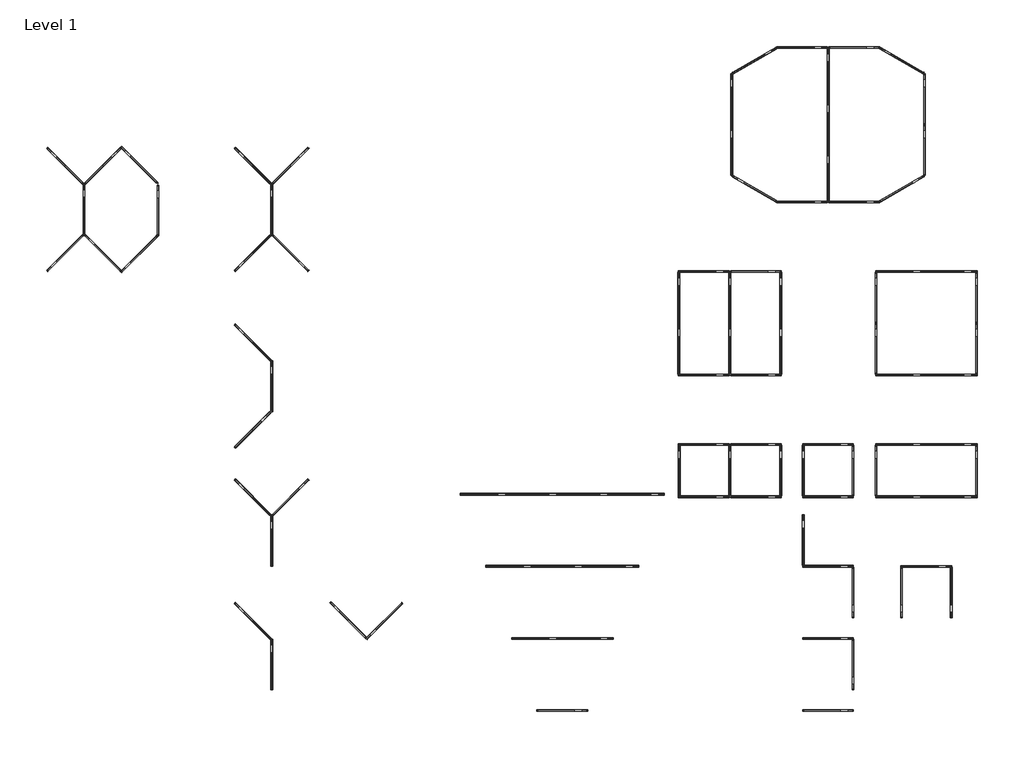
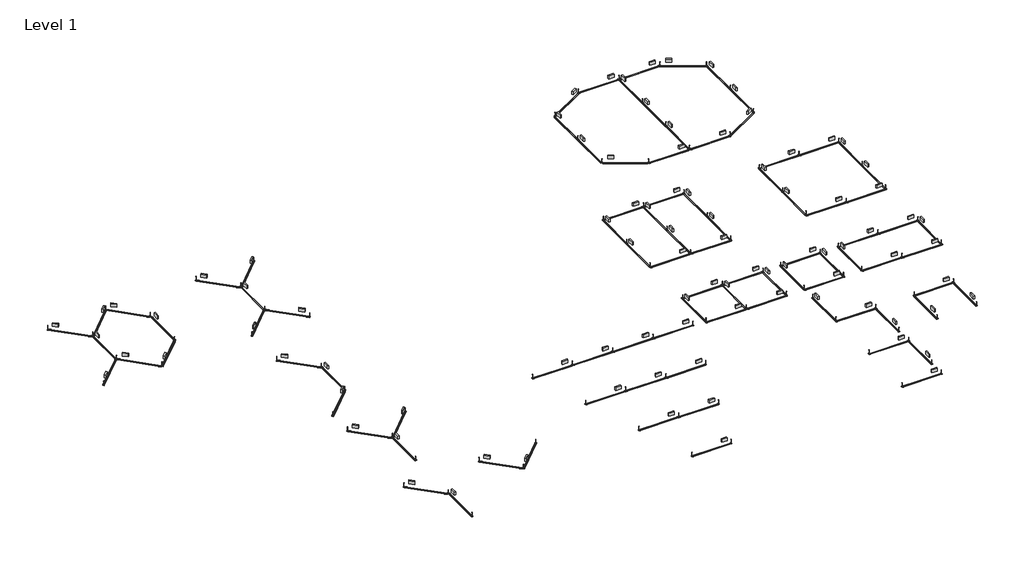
# One storey: 92 light fixtures.
"""IFC4 building model written with IfcOpenShell, lengths in millimetres."""

from ifc_helpers import new_model, si_unit, origin, place, context, project, spatial, transform, mapped, element, save
from components import light_fixture_3e24a621, light_fixture_ee533db2, light_fixture_271697db, light_fixture_cd124d69, light_fixture_cd4f6d3a, light_fixture_5896567f, light_fixture_b22f9c4b, light_fixture_e99aa70f, light_fixture_3a0b2da0, light_fixture_173045c4, light_fixture_2914079e, light_fixture_7c029200, light_fixture_7fb10494, light_fixture_3ca2d1e0, light_fixture_e4f0a693, light_fixture_d05c8b2b, light_fixture_16b5204d, light_fixture_072f2477, light_fixture_eab2339f, light_fixture_f0bcf3ed, light_fixture_624f0ba3

model = new_model("IFC4")

# Units and contexts
model_context = context("Model", 3, world=origin())
ifc_project = project(units=[si_unit("LENGTHUNIT", "METRE", prefix="MILLI")], contexts=[model_context])

# Site, building, storey
site = spatial("IfcSite", under=ifc_project)
building = spatial("IfcBuilding", under=site)
storey = spatial("IfcBuildingStorey", under=building, Name="Level 1", Elevation=0.0)

# Light fixtures
placement = place(None, origin())
light_fixture_shape = light_fixture_3e24a621(model_context)
element("IfcLightFixture", 1, ObjectType="Fabbian.Pivot F39 (F39 A01A 01,F39 A01A 21,F39 A01A 76,F39 A02A 01,F39 A02A 21,F39 A02A 76) : F39 A01A 01", at=placement, inside=storey, context=model_context, shape_type="MappedRepresentation", body=[
    mapped(light_fixture_shape, transform((-397.4015807, -85.0224688, 0.0), x_axis=(1.0, 0.0, 0.0), y_axis=(0.0, -1.0, 0.0), z_axis=(0.0, 0.0, -1.0))),
])
element("IfcLightFixture", 2, ObjectType="Fabbian.Pivot F39 (F39 A01A 01,F39 A01A 21,F39 A01A 76,F39 A02A 01,F39 A02A 21,F39 A02A 76) : F39 A01A 01", at=placement, inside=storey, context=model_context, shape_type="MappedRepresentation", body=[
    mapped(light_fixture_shape, transform((8102.5984193, -85.0224688, 0.0), x_axis=(1.0, 0.0, 0.0), y_axis=(0.0, -1.0, 0.0), z_axis=(0.0, 0.0, -1.0))),
])
light_fixture_2_shape = light_fixture_ee533db2(model_context)
element("IfcLightFixture", 3, ObjectType="Fabbian.Pivot F39 (F39 A01A 01,F39 A01A 21,F39 A01A 76,F39 A02A 01,F39 A02A 21,F39 A02A 76) : F39 A01A 01", at=placement, inside=storey, context=model_context, shape_type="MappedRepresentation", body=[
    mapped(light_fixture_2_shape, transform((423.7070174, 2219.7775312, 0.0), x_axis=(1.0, 0.0, 0.0), y_axis=(0.0, -1.0, 0.0), z_axis=(0.0, 0.0, -1.0))),
])
element("IfcLightFixture", 4, ObjectType="Fabbian.Pivot F39 (F39 A01A 01,F39 A01A 21,F39 A01A 76,F39 A02A 01,F39 A02A 21,F39 A02A 76) : F39 A01A 01", at=placement, inside=storey, context=model_context, shape_type="MappedRepresentation", body=[
    mapped(light_fixture_2_shape, transform((1234.2249861, 4523.1701321, 0.0), x_axis=(1.0, 0.0, 0.0), y_axis=(0.0, -1.0, 0.0), z_axis=(0.0, 0.0, -1.0))),
])
element("IfcLightFixture", 5, ObjectType="Fabbian.Pivot F39 (F39 A01A 01,F39 A01A 21,F39 A01A 76,F39 A02A 01,F39 A02A 21,F39 A02A 76) : F39 A01A 01", at=placement, inside=storey, context=model_context, shape_type="MappedRepresentation", body=[
    mapped(light_fixture_2_shape, transform((2044.7429549, 6827.3841838, 0.0), x_axis=(1.0, 0.0, 0.0), y_axis=(0.0, -1.0, 0.0), z_axis=(0.0, 0.0, -1.0))),
])
element("IfcLightFixture", 6, ObjectType="Fabbian.Pivot F39 (F39 A01A 01,F39 A01A 21,F39 A01A 76,F39 A02A 01,F39 A02A 21,F39 A02A 76) : F39 A01A 01", at=placement, inside=storey, context=model_context, shape_type="MappedRepresentation", body=[
    mapped(light_fixture_2_shape, transform((8899.0121088, 1381.4783124, 0.0), x_axis=(0.0, -1.0, 0.0), y_axis=(-1.0, 0.0, 0.0), z_axis=(0.0, 0.0, -1.0))),
])
element("IfcLightFixture", 7, ObjectType="Fabbian.Pivot F39 (F39 A01A 01,F39 A01A 21,F39 A01A 76,F39 A02A 01,F39 A02A 21,F39 A02A 76) : F39 A01A 01", at=placement, inside=storey, context=model_context, shape_type="MappedRepresentation", body=[
    mapped(light_fixture_2_shape, transform((8899.0121088, 3685.2816387, 0.0), x_axis=(0.0, -1.0, 0.0), y_axis=(-1.0, 0.0, 0.0), z_axis=(0.0, 0.0, -1.0))),
])
element("IfcLightFixture", 8, ObjectType="Fabbian.Pivot F39 (F39 A01A 01,F39 A01A 21,F39 A01A 76,F39 A02A 01,F39 A02A 21,F39 A02A 76) : F39 A01A 01", at=placement, inside=storey, context=model_context, shape_type="MappedRepresentation", body=[
    mapped(light_fixture_2_shape, transform((7306.1808567, 5361.8800762, 0.0), x_axis=(0.0, 1.0, 0.0), y_axis=(1.0, 0.0, 0.0), z_axis=(0.0, 0.0, -1.0))),
])
element("IfcLightFixture", 9, ObjectType="Fabbian.Pivot F39 (F39 A01A 01,F39 A01A 21,F39 A01A 76,F39 A02A 01,F39 A02A 21,F39 A02A 76) : F39 A01A 01", at=placement, inside=storey, context=model_context, shape_type="MappedRepresentation", body=[
    mapped(light_fixture_2_shape, transform((12038.885633, 3683.8883063, 0.0), x_axis=(0.0, -1.0, 0.0), y_axis=(-1.0, 0.0, 0.0), z_axis=(0.0, 0.0, -1.0))),
])
element("IfcLightFixture", 10, ObjectType="Fabbian.Pivot F39 (F39 A01A 01,F39 A01A 21,F39 A01A 76,F39 A02A 01,F39 A02A 21,F39 A02A 76) : F39 A01A 01", at=placement, inside=storey, context=model_context, shape_type="MappedRepresentation", body=[
    mapped(light_fixture_2_shape, transform((10446.0543808, 3683.8883063, 0.0), x_axis=(0.0, -1.0, 0.0), y_axis=(-1.0, 0.0, 0.0), z_axis=(0.0, 0.0, -1.0))),
])
element("IfcLightFixture", 11, ObjectType="Fabbian.Pivot F39 (F39 A01A 01,F39 A01A 21,F39 A01A 76,F39 A02A 01,F39 A02A 21,F39 A02A 76) : F39 A01A 01", at=placement, inside=storey, context=model_context, shape_type="MappedRepresentation", body=[
    mapped(light_fixture_2_shape, transform((-7244.3753854, 2806.3629975, 0.0), x_axis=(-0.7071067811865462, 0.7071067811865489, 0.0), y_axis=(0.7071067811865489, 0.7071067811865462, 0.0), z_axis=(0.0, 0.0, -1.0))),
])
light_fixture_3_shape = light_fixture_271697db(model_context)
element("IfcLightFixture", 12, ObjectType="Fabbian.Pivot F39 (F39 A01A 01,F39 A01A 21,F39 A01A 76,F39 A02A 01,F39 A02A 21,F39 A02A 76) : F39 A01A 01", at=placement, inside=storey, context=model_context, shape_type="MappedRepresentation", body=[
    mapped(light_fixture_3_shape, transform((-1207.9195494, 2219.7775312, 0.0), x_axis=(1.0, 0.0, 0.0), y_axis=(0.0, -1.0, 0.0), z_axis=(0.0, 0.0, -1.0))),
])
element("IfcLightFixture", 13, ObjectType="Fabbian.Pivot F39 (F39 A01A 01,F39 A01A 21,F39 A01A 76,F39 A02A 01,F39 A02A 21,F39 A02A 76) : F39 A01A 01", at=placement, inside=storey, context=model_context, shape_type="MappedRepresentation", body=[
    mapped(light_fixture_3_shape, transform((8102.5984193, 2219.7775312, 0.0), x_axis=(1.0, 0.0, 0.0), y_axis=(0.0, -1.0, 0.0), z_axis=(0.0, 0.0, -1.0))),
])
element("IfcLightFixture", 14, ObjectType="Fabbian.Pivot F39 (F39 A01A 01,F39 A01A 21,F39 A01A 76,F39 A02A 01,F39 A02A 21,F39 A02A 76) : F39 A01A 01", at=placement, inside=storey, context=model_context, shape_type="MappedRepresentation", body=[
    mapped(light_fixture_3_shape, transform((-6088.4588027, 2776.7454558, 0.0), x_axis=(-0.7071067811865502, -0.7071067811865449, 0.0), y_axis=(-0.7071067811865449, 0.7071067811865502, 0.0), z_axis=(0.0, 0.0, -1.0))),
])
light_fixture_4_shape = light_fixture_cd124d69(model_context)
element("IfcLightFixture", 15, ObjectType="Fabbian.Pivot F39 (F39 A01A 01,F39 A01A 21,F39 A01A 76,F39 A02A 01,F39 A02A 21,F39 A02A 76) : F39 A01A 01", at=placement, inside=storey, context=model_context, shape_type="MappedRepresentation", body=[
    mapped(light_fixture_4_shape, transform((-2029.0281475, 4523.1701321, 0.0), x_axis=(1.0, 0.0, 0.0), y_axis=(0.0, -1.0, 0.0), z_axis=(0.0, 0.0, -1.0))),
])
element("IfcLightFixture", 16, ObjectType="Fabbian.Pivot F39 (F39 A01A 01,F39 A01A 21,F39 A01A 76,F39 A02A 01,F39 A02A 21,F39 A02A 76) : F39 A01A 01", at=placement, inside=storey, context=model_context, shape_type="MappedRepresentation", body=[
    mapped(light_fixture_4_shape, transform((-2850.1367456, 6827.3841836, 0.0), x_axis=(1.0, 0.0, 0.0), y_axis=(0.0, -1.0, 0.0), z_axis=(0.0, 0.0, -1.0))),
])
element("IfcLightFixture", 17, ObjectType="Fabbian.Pivot F39 (F39 A01A 01,F39 A01A 21,F39 A01A 76,F39 A02A 01,F39 A02A 21,F39 A02A 76) : F39 A01A 01", at=placement, inside=storey, context=model_context, shape_type="MappedRepresentation", body=[
    mapped(light_fixture_4_shape, transform((-10299.1778112, 8890.6153217, 0.0), x_axis=(0.707106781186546, 0.7071067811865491, 0.0), y_axis=(0.7071067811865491, -0.707106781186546, 0.0), z_axis=(0.0, 0.0, -1.0))),
])
light_fixture_5_shape = light_fixture_cd4f6d3a(model_context)
element("IfcLightFixture", 18, ObjectType="Fabbian.Pivot F39 (F39 A01A 01,F39 A01A 21,F39 A01A 76,F39 A02A 01,F39 A02A 21,F39 A02A 76) : F39 A01A 01", at=placement, inside=storey, context=model_context, shape_type="MappedRepresentation", body=[
    mapped(light_fixture_5_shape, transform((-397.4015807, 4523.5808575, 0.0), x_axis=(1.0, 0.0, 0.0), y_axis=(0.0, -1.0, 0.0), z_axis=(0.0, 0.0, -1.0))),
])
element("IfcLightFixture", 19, ObjectType="Fabbian.Pivot F39 (F39 A01A 01,F39 A01A 21,F39 A01A 76,F39 A02A 01,F39 A02A 21,F39 A02A 76) : F39 A01A 01", at=placement, inside=storey, context=model_context, shape_type="MappedRepresentation", body=[
    mapped(light_fixture_5_shape, transform((-1218.5101788, 6827.3841838, 0.0), x_axis=(1.0, 0.0, 0.0), y_axis=(0.0, -1.0, 0.0), z_axis=(0.0, 0.0, -1.0))),
])
element("IfcLightFixture", 20, ObjectType="Fabbian.Pivot F39 (F39 A01A 01,F39 A01A 21,F39 A01A 76,F39 A02A 01,F39 A02A 21,F39 A02A 76) : F39 A01A 01", at=placement, inside=storey, context=model_context, shape_type="MappedRepresentation", body=[
    mapped(light_fixture_5_shape, transform((8102.5984193, 4523.5808575, 0.0), x_axis=(1.0, 0.0, 0.0), y_axis=(0.0, -1.0, 0.0), z_axis=(0.0, 0.0, -1.0))),
])
element("IfcLightFixture", 21, ObjectType="Fabbian.Pivot F39 (F39 A01A 01,F39 A01A 21,F39 A01A 76,F39 A02A 01,F39 A02A 21,F39 A02A 76) : F39 A01A 01", at=placement, inside=storey, context=model_context, shape_type="MappedRepresentation", body=[
    mapped(light_fixture_5_shape, transform((8102.5984193, 8423.5808575, 0.0), x_axis=(1.0, 0.0, 0.0), y_axis=(0.0, -1.0, 0.0), z_axis=(0.0, 0.0, -1.0))),
])
element("IfcLightFixture", 22, ObjectType="Fabbian.Pivot F39 (F39 A01A 01,F39 A01A 21,F39 A01A 76,F39 A02A 01,F39 A02A 21,F39 A02A 76) : F39 A01A 01", at=placement, inside=storey, context=model_context, shape_type="MappedRepresentation", body=[
    mapped(light_fixture_5_shape, transform((11242.4719435, 4522.187525, 0.0), x_axis=(1.0, 0.0, 0.0), y_axis=(0.0, -1.0, 0.0), z_axis=(0.0, 0.0, -1.0))),
])
element("IfcLightFixture", 23, ObjectType="Fabbian.Pivot F39 (F39 A01A 01,F39 A01A 21,F39 A01A 76,F39 A02A 01,F39 A02A 21,F39 A02A 76) : F39 A01A 01", at=placement, inside=storey, context=model_context, shape_type="MappedRepresentation", body=[
    mapped(light_fixture_5_shape, transform((8102.5984193, 6746.9722265, 0.0), x_axis=(1.0, 0.0, 0.0), y_axis=(0.0, -1.0, 0.0), z_axis=(0.0, 0.0, -1.0))),
])
element("IfcLightFixture", 24, ObjectType="Fabbian.Pivot F39 (F39 A01A 01,F39 A01A 21,F39 A01A 76,F39 A02A 01,F39 A02A 21,F39 A02A 76) : F39 A01A 01", at=placement, inside=storey, context=model_context, shape_type="MappedRepresentation", body=[
    mapped(light_fixture_5_shape, transform((10431.9578479, 8423.5808575, 0.0), x_axis=(1.0, 0.0, 0.0), y_axis=(0.0, -1.0, 0.0), z_axis=(0.0, 0.0, -1.0))),
])
element("IfcLightFixture", 25, ObjectType="Fabbian.Pivot F39 (F39 A01A 01,F39 A01A 21,F39 A01A 76,F39 A02A 01,F39 A02A 21,F39 A02A 76) : F39 A01A 01", at=placement, inside=storey, context=model_context, shape_type="MappedRepresentation", body=[
    mapped(light_fixture_5_shape, transform((10431.9578479, 6746.9722265, 0.0), x_axis=(1.0, 0.0, 0.0), y_axis=(0.0, -1.0, 0.0), z_axis=(0.0, 0.0, -1.0))),
])
element("IfcLightFixture", 26, ObjectType="Fabbian.Pivot F39 (F39 A01A 01,F39 A01A 21,F39 A01A 76,F39 A02A 01,F39 A02A 21,F39 A02A 76) : F39 A01A 01", at=placement, inside=storey, context=model_context, shape_type="MappedRepresentation", body=[
    mapped(light_fixture_5_shape, transform((4123.6124239, 8423.5808575, 0.0), x_axis=(1.0, 0.0, 0.0), y_axis=(0.0, -1.0, 0.0), z_axis=(0.0, 0.0, -1.0))),
])
element("IfcLightFixture", 27, ObjectType="Fabbian.Pivot F39 (F39 A01A 01,F39 A01A 21,F39 A01A 76,F39 A02A 01,F39 A02A 21,F39 A02A 76) : F39 A01A 01", at=placement, inside=storey, context=model_context, shape_type="MappedRepresentation", body=[
    mapped(light_fixture_5_shape, transform((4123.6124239, 6746.9722265, 0.0), x_axis=(1.0, 0.0, 0.0), y_axis=(0.0, -1.0, 0.0), z_axis=(0.0, 0.0, -1.0))),
])
element("IfcLightFixture", 28, ObjectType="Fabbian.Pivot F39 (F39 A01A 01,F39 A01A 21,F39 A01A 76,F39 A02A 01,F39 A02A 21,F39 A02A 76) : F39 A01A 01", at=placement, inside=storey, context=model_context, shape_type="MappedRepresentation", body=[
    mapped(light_fixture_5_shape, transform((10431.9578479, 13955.2074243, 0.0), x_axis=(1.0, 0.0, 0.0), y_axis=(0.0, -1.0, 0.0), z_axis=(0.0, 0.0, -1.0))),
])
element("IfcLightFixture", 29, ObjectType="Fabbian.Pivot F39 (F39 A01A 01,F39 A01A 21,F39 A01A 76,F39 A02A 01,F39 A02A 21,F39 A02A 76) : F39 A01A 01", at=placement, inside=storey, context=model_context, shape_type="MappedRepresentation", body=[
    mapped(light_fixture_5_shape, transform((10431.9578479, 10646.9722265, 0.0), x_axis=(1.0, 0.0, 0.0), y_axis=(0.0, -1.0, 0.0), z_axis=(0.0, 0.0, -1.0))),
])
element("IfcLightFixture", 30, ObjectType="Fabbian.Pivot F39 (F39 A01A 01,F39 A01A 21,F39 A01A 76,F39 A02A 01,F39 A02A 21,F39 A02A 76) : F39 A01A 01", at=placement, inside=storey, context=model_context, shape_type="MappedRepresentation", body=[
    mapped(light_fixture_5_shape, transform((4123.6124239, 13955.2074243, 0.0), x_axis=(1.0, 0.0, 0.0), y_axis=(0.0, -1.0, 0.0), z_axis=(0.0, 0.0, -1.0))),
])
element("IfcLightFixture", 31, ObjectType="Fabbian.Pivot F39 (F39 A01A 01,F39 A01A 21,F39 A01A 76,F39 A02A 01,F39 A02A 21,F39 A02A 76) : F39 A01A 01", at=placement, inside=storey, context=model_context, shape_type="MappedRepresentation", body=[
    mapped(light_fixture_5_shape, transform((4123.6124239, 10646.9722265, 0.0), x_axis=(1.0, 0.0, 0.0), y_axis=(0.0, -1.0, 0.0), z_axis=(0.0, 0.0, -1.0))),
])
element("IfcLightFixture", 32, ObjectType="Fabbian.Pivot F39 (F39 A01A 01,F39 A01A 21,F39 A01A 76,F39 A02A 01,F39 A02A 21,F39 A02A 76) : F39 A01A 01", at=placement, inside=storey, context=model_context, shape_type="MappedRepresentation", body=[
    mapped(light_fixture_5_shape, transform((7268.3744105, 21118.4605579, 0.0), x_axis=(1.0, 0.0, 0.0), y_axis=(0.0, -1.0, 0.0), z_axis=(0.0, 0.0, -1.0))),
])
element("IfcLightFixture", 33, ObjectType="Fabbian.Pivot F39 (F39 A01A 01,F39 A01A 21,F39 A01A 76,F39 A02A 01,F39 A02A 21,F39 A02A 76) : F39 A01A 01", at=placement, inside=storey, context=model_context, shape_type="MappedRepresentation", body=[
    mapped(light_fixture_5_shape, transform((7268.3744105, 16178.5987933, 0.0), x_axis=(1.0, 0.0, 0.0), y_axis=(0.0, -1.0, 0.0), z_axis=(0.0, 0.0, -1.0))),
])
element("IfcLightFixture", 34, ObjectType="Fabbian.Pivot F39 (F39 A01A 01,F39 A01A 21,F39 A01A 76,F39 A02A 01,F39 A02A 21,F39 A02A 76) : F39 A01A 01", at=placement, inside=storey, context=model_context, shape_type="MappedRepresentation", body=[
    mapped(light_fixture_5_shape, transform((11186.3166124, 19464.683234, 0.0), x_axis=(0.0, 1.0, 0.0), y_axis=(1.0, 0.0, 0.0), z_axis=(0.0, 0.0, -1.0))),
])
light_fixture_6_shape = light_fixture_5896567f(model_context)
element("IfcLightFixture", 35, ObjectType="Fabbian.Pivot F39 (F39 A01A 01,F39 A01A 21,F39 A01A 76,F39 A02A 01,F39 A02A 21,F39 A02A 76) : F39 A01A 01", at=placement, inside=storey, context=model_context, shape_type="MappedRepresentation", body=[
    mapped(light_fixture_6_shape, transform((413.1163881, 6827.3841838, 0.0), x_axis=(1.0, 0.0, 0.0), y_axis=(0.0, -1.0, 0.0), z_axis=(0.0, 0.0, -1.0))),
])
element("IfcLightFixture", 36, ObjectType="Fabbian.Pivot F39 (F39 A01A 01,F39 A01A 21,F39 A01A 76,F39 A02A 01,F39 A02A 21,F39 A02A 76) : F39 A01A 01", at=placement, inside=storey, context=model_context, shape_type="MappedRepresentation", body=[
    mapped(light_fixture_6_shape, transform((12063.5844147, 8423.5808575, 0.0), x_axis=(1.0, 0.0, 0.0), y_axis=(0.0, -1.0, 0.0), z_axis=(0.0, 0.0, -1.0))),
])
element("IfcLightFixture", 37, ObjectType="Fabbian.Pivot F39 (F39 A01A 01,F39 A01A 21,F39 A01A 76,F39 A02A 01,F39 A02A 21,F39 A02A 76) : F39 A01A 01", at=placement, inside=storey, context=model_context, shape_type="MappedRepresentation", body=[
    mapped(light_fixture_6_shape, transform((12063.5844147, 6746.9722265, 0.0), x_axis=(1.0, 0.0, 0.0), y_axis=(0.0, -1.0, 0.0), z_axis=(0.0, 0.0, -1.0))),
])
element("IfcLightFixture", 38, ObjectType="Fabbian.Pivot F39 (F39 A01A 01,F39 A01A 21,F39 A01A 76,F39 A02A 01,F39 A02A 21,F39 A02A 76) : F39 A01A 01", at=placement, inside=storey, context=model_context, shape_type="MappedRepresentation", body=[
    mapped(light_fixture_6_shape, transform((12063.5844147, 13955.2074243, 0.0), x_axis=(1.0, 0.0, 0.0), y_axis=(0.0, -1.0, 0.0), z_axis=(0.0, 0.0, -1.0))),
])
element("IfcLightFixture", 39, ObjectType="Fabbian.Pivot F39 (F39 A01A 01,F39 A01A 21,F39 A01A 76,F39 A02A 01,F39 A02A 21,F39 A02A 76) : F39 A01A 01", at=placement, inside=storey, context=model_context, shape_type="MappedRepresentation", body=[
    mapped(light_fixture_6_shape, transform((12063.5844147, 10646.9722265, 0.0), x_axis=(1.0, 0.0, 0.0), y_axis=(0.0, -1.0, 0.0), z_axis=(0.0, 0.0, -1.0))),
])
element("IfcLightFixture", 40, ObjectType="Fabbian.Pivot F39 (F39 A01A 01,F39 A01A 21,F39 A01A 76,F39 A02A 01,F39 A02A 21,F39 A02A 76) : F39 A01A 01", at=placement, inside=storey, context=model_context, shape_type="MappedRepresentation", body=[
    mapped(light_fixture_6_shape, transform((-15088.0545509, 14542.352338, 0.0), x_axis=(-0.7071067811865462, 0.7071067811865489, 0.0), y_axis=(0.7071067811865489, 0.7071067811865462, 0.0), z_axis=(0.0, 0.0, -1.0))),
])
element("IfcLightFixture", 41, ObjectType="Fabbian.Pivot F39 (F39 A01A 01,F39 A01A 21,F39 A01A 76,F39 A02A 01,F39 A02A 21,F39 A02A 76) : F39 A01A 01", at=placement, inside=storey, context=model_context, shape_type="MappedRepresentation", body=[
    mapped(light_fixture_6_shape, transform((-13932.1379682, 14512.7347962, 0.0), x_axis=(-0.7071067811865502, -0.7071067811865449, 0.0), y_axis=(-0.7071067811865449, 0.7071067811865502, 0.0), z_axis=(0.0, 0.0, -1.0))),
])
light_fixture_7_shape = light_fixture_b22f9c4b(model_context)
element("IfcLightFixture", 42, ObjectType="Fabbian.Pivot F39 (F39 A01A 01,F39 A01A 21,F39 A01A 76,F39 A02A 01,F39 A02A 21,F39 A02A 76) : F39 A01A 01", at=placement, inside=storey, context=model_context, shape_type="MappedRepresentation", body=[
    mapped(light_fixture_7_shape, transform((8899.0121088, 7585.2816387, 0.0), x_axis=(0.0, 1.0, 0.0), y_axis=(1.0, 0.0, 0.0), z_axis=(0.0, 0.0, -1.0))),
])
element("IfcLightFixture", 43, ObjectType="Fabbian.Pivot F39 (F39 A01A 01,F39 A01A 21,F39 A01A 76,F39 A02A 01,F39 A02A 21,F39 A02A 76) : F39 A01A 01", at=placement, inside=storey, context=model_context, shape_type="MappedRepresentation", body=[
    mapped(light_fixture_7_shape, transform((7306.1808567, 7585.2816387, 0.0), x_axis=(0.0, 1.0, 0.0), y_axis=(1.0, 0.0, 0.0), z_axis=(0.0, 0.0, -1.0))),
])
element("IfcLightFixture", 44, ObjectType="Fabbian.Pivot F39 (F39 A01A 01,F39 A01A 21,F39 A01A 76,F39 A02A 01,F39 A02A 21,F39 A02A 76) : F39 A01A 01", at=placement, inside=storey, context=model_context, shape_type="MappedRepresentation", body=[
    mapped(light_fixture_7_shape, transform((9635.5402852, 7585.2816387, 0.0), x_axis=(0.0, 1.0, 0.0), y_axis=(1.0, 0.0, 0.0), z_axis=(0.0, 0.0, -1.0))),
])
element("IfcLightFixture", 45, ObjectType="Fabbian.Pivot F39 (F39 A01A 01,F39 A01A 21,F39 A01A 76,F39 A02A 01,F39 A02A 21,F39 A02A 76) : F39 A01A 01", at=placement, inside=storey, context=model_context, shape_type="MappedRepresentation", body=[
    mapped(light_fixture_7_shape, transform((12849.4036017, 7585.2816387, 0.0), x_axis=(0.0, 1.0, 0.0), y_axis=(1.0, 0.0, 0.0), z_axis=(0.0, 0.0, -1.0))),
])
element("IfcLightFixture", 46, ObjectType="Fabbian.Pivot F39 (F39 A01A 01,F39 A01A 21,F39 A01A 76,F39 A02A 01,F39 A02A 21,F39 A02A 76) : F39 A01A 01", at=placement, inside=storey, context=model_context, shape_type="MappedRepresentation", body=[
    mapped(light_fixture_7_shape, transform((9635.5402852, 11485.2816387, 0.0), x_axis=(0.0, 1.0, 0.0), y_axis=(1.0, 0.0, 0.0), z_axis=(0.0, 0.0, -1.0))),
])
element("IfcLightFixture", 47, ObjectType="Fabbian.Pivot F39 (F39 A01A 01,F39 A01A 21,F39 A01A 76,F39 A02A 01,F39 A02A 21,F39 A02A 76) : F39 A01A 01", at=placement, inside=storey, context=model_context, shape_type="MappedRepresentation", body=[
    mapped(light_fixture_7_shape, transform((12849.4036017, 11485.2816387, 0.0), x_axis=(0.0, 1.0, 0.0), y_axis=(1.0, 0.0, 0.0), z_axis=(0.0, 0.0, -1.0))),
])
element("IfcLightFixture", 48, ObjectType="Fabbian.Pivot F39 (F39 A01A 01,F39 A01A 21,F39 A01A 76,F39 A02A 01,F39 A02A 21,F39 A02A 76) : F39 A01A 01", at=placement, inside=storey, context=model_context, shape_type="MappedRepresentation", body=[
    mapped(light_fixture_7_shape, transform((10458.4030862, 16597.7484027, 0.0), x_axis=(0.8660254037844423, 0.4999999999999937, 0.0), y_axis=(0.4999999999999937, -0.8660254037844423, 0.0), z_axis=(0.0, 0.0, -1.0))),
])
element("IfcLightFixture", 49, ObjectType="Fabbian.Pivot F39 (F39 A01A 01,F39 A01A 21,F39 A01A 76,F39 A02A 01,F39 A02A 21,F39 A02A 76) : F39 A01A 01", at=placement, inside=storey, context=model_context, shape_type="MappedRepresentation", body=[
    mapped(light_fixture_7_shape, transform((10458.4030862, 20699.3109485, 0.0), x_axis=(-0.8660254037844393, 0.49999999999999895, 0.0), y_axis=(0.49999999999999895, 0.8660254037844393, 0.0), z_axis=(0.0, 0.0, -1.0))),
])
light_fixture_8_shape = light_fixture_e99aa70f(model_context)
element("IfcLightFixture", 50, ObjectType="Fabbian.Pivot F39 (F39 A01A 01,F39 A01A 21,F39 A01A 76,F39 A02A 01,F39 A02A 21,F39 A02A 76) : F39 A01A 01", at=placement, inside=storey, context=model_context, shape_type="MappedRepresentation", body=[
    mapped(light_fixture_8_shape, transform((5791.2389907, 8423.5808575, 0.0), x_axis=(1.0, 0.0, 0.0), y_axis=(0.0, -1.0, 0.0), z_axis=(0.0, 0.0, -1.0))),
])
element("IfcLightFixture", 51, ObjectType="Fabbian.Pivot F39 (F39 A01A 01,F39 A01A 21,F39 A01A 76,F39 A02A 01,F39 A02A 21,F39 A02A 76) : F39 A01A 01", at=placement, inside=storey, context=model_context, shape_type="MappedRepresentation", body=[
    mapped(light_fixture_8_shape, transform((5791.2389907, 6746.9722265, 0.0), x_axis=(1.0, 0.0, 0.0), y_axis=(0.0, -1.0, 0.0), z_axis=(0.0, 0.0, -1.0))),
])
element("IfcLightFixture", 52, ObjectType="Fabbian.Pivot F39 (F39 A01A 01,F39 A01A 21,F39 A01A 76,F39 A02A 01,F39 A02A 21,F39 A02A 76) : F39 A01A 01", at=placement, inside=storey, context=model_context, shape_type="MappedRepresentation", body=[
    mapped(light_fixture_8_shape, transform((5791.2389907, 13955.2074243, 0.0), x_axis=(1.0, 0.0, 0.0), y_axis=(0.0, -1.0, 0.0), z_axis=(0.0, 0.0, -1.0))),
])
element("IfcLightFixture", 53, ObjectType="Fabbian.Pivot F39 (F39 A01A 01,F39 A01A 21,F39 A01A 76,F39 A02A 01,F39 A02A 21,F39 A02A 76) : F39 A01A 01", at=placement, inside=storey, context=model_context, shape_type="MappedRepresentation", body=[
    mapped(light_fixture_8_shape, transform((5791.2389907, 10646.9722265, 0.0), x_axis=(1.0, 0.0, 0.0), y_axis=(0.0, -1.0, 0.0), z_axis=(0.0, 0.0, -1.0))),
])
element("IfcLightFixture", 54, ObjectType="Fabbian.Pivot F39 (F39 A01A 01,F39 A01A 21,F39 A01A 76,F39 A02A 01,F39 A02A 21,F39 A02A 76) : F39 A01A 01", at=placement, inside=storey, context=model_context, shape_type="MappedRepresentation", body=[
    mapped(light_fixture_8_shape, transform((8936.0009773, 21118.4605579, 0.0), x_axis=(1.0, 0.0, 0.0), y_axis=(0.0, -1.0, 0.0), z_axis=(0.0, 0.0, -1.0))),
])
element("IfcLightFixture", 55, ObjectType="Fabbian.Pivot F39 (F39 A01A 01,F39 A01A 21,F39 A01A 76,F39 A02A 01,F39 A02A 21,F39 A02A 76) : F39 A01A 01", at=placement, inside=storey, context=model_context, shape_type="MappedRepresentation", body=[
    mapped(light_fixture_8_shape, transform((8936.0009773, 16178.5987933, 0.0), x_axis=(1.0, 0.0, 0.0), y_axis=(0.0, -1.0, 0.0), z_axis=(0.0, 0.0, -1.0))),
])
element("IfcLightFixture", 56, ObjectType="Fabbian.Pivot F39 (F39 A01A 01,F39 A01A 21,F39 A01A 76,F39 A02A 01,F39 A02A 21,F39 A02A 76) : F39 A01A 01", at=placement, inside=storey, context=model_context, shape_type="MappedRepresentation", body=[
    mapped(light_fixture_8_shape, transform((8102.1876939, 18648.5347723, 0.0), x_axis=(0.0, 1.0, 0.0), y_axis=(1.0, 0.0, 0.0), z_axis=(0.0, 0.0, -1.0))),
])
element("IfcLightFixture", 57, ObjectType="Fabbian.Pivot F39 (F39 A01A 01,F39 A01A 21,F39 A01A 76,F39 A02A 01,F39 A02A 21,F39 A02A 76) : F39 A01A 01", at=placement, inside=storey, context=model_context, shape_type="MappedRepresentation", body=[
    mapped(light_fixture_8_shape, transform((5018.0587755, 19464.683234, 0.0), x_axis=(0.0, 1.0, 0.0), y_axis=(1.0, 0.0, 0.0), z_axis=(0.0, 0.0, -1.0))),
])
element("IfcLightFixture", 58, ObjectType="Fabbian.Pivot F39 (F39 A01A 01,F39 A01A 21,F39 A01A 76,F39 A02A 01,F39 A02A 21,F39 A02A 76) : F39 A01A 01", at=placement, inside=storey, context=model_context, shape_type="MappedRepresentation", body=[
    mapped(light_fixture_8_shape, transform((-9693.8152702, 10285.8779959, 0.0), x_axis=(0.0, 1.0, 0.0), y_axis=(1.0, 0.0, 0.0), z_axis=(0.0, 0.0, -1.0))),
])
element("IfcLightFixture", 59, ObjectType="Fabbian.Pivot F39 (F39 A01A 01,F39 A01A 21,F39 A01A 76,F39 A02A 01,F39 A02A 21,F39 A02A 76) : F39 A01A 01", at=placement, inside=storey, context=model_context, shape_type="MappedRepresentation", body=[
    mapped(light_fixture_8_shape, transform((-13326.7853738, 15908.0074171, 0.0), x_axis=(0.0, 1.0, 0.0), y_axis=(1.0, 0.0, 0.0), z_axis=(0.0, 0.0, -1.0))),
])
light_fixture_9_shape = light_fixture_3a0b2da0(model_context)
element("IfcLightFixture", 60, ObjectType="Fabbian.Pivot F39 (F39 A01A 01,F39 A01A 21,F39 A01A 76,F39 A02A 01,F39 A02A 21,F39 A02A 76) : F39 A01A 01", at=placement, inside=storey, context=model_context, shape_type="MappedRepresentation", body=[
    mapped(light_fixture_9_shape, transform((6587.6565533, 7585.2816387, 0.0), x_axis=(0.0, 1.0, 0.0), y_axis=(1.0, 0.0, 0.0), z_axis=(0.0, 0.0, -1.0))),
])
element("IfcLightFixture", 61, ObjectType="Fabbian.Pivot F39 (F39 A01A 01,F39 A01A 21,F39 A01A 76,F39 A02A 01,F39 A02A 21,F39 A02A 76) : F39 A01A 01", at=placement, inside=storey, context=model_context, shape_type="MappedRepresentation", body=[
    mapped(light_fixture_9_shape, transform((3337.7932369, 7585.2816387, 0.0), x_axis=(0.0, 1.0, 0.0), y_axis=(1.0, 0.0, 0.0), z_axis=(0.0, 0.0, -1.0))),
])
element("IfcLightFixture", 62, ObjectType="Fabbian.Pivot F39 (F39 A01A 01,F39 A01A 21,F39 A01A 76,F39 A02A 01,F39 A02A 21,F39 A02A 76) : F39 A01A 01", at=placement, inside=storey, context=model_context, shape_type="MappedRepresentation", body=[
    mapped(light_fixture_9_shape, transform((6587.6565533, 11485.2816387, 0.0), x_axis=(0.0, 1.0, 0.0), y_axis=(1.0, 0.0, 0.0), z_axis=(0.0, 0.0, -1.0))),
])
element("IfcLightFixture", 63, ObjectType="Fabbian.Pivot F39 (F39 A01A 01,F39 A01A 21,F39 A01A 76,F39 A02A 01,F39 A02A 21,F39 A02A 76) : F39 A01A 01", at=placement, inside=storey, context=model_context, shape_type="MappedRepresentation", body=[
    mapped(light_fixture_9_shape, transform((3327.1987344, 11485.2816387, 0.0), x_axis=(0.0, 1.0, 0.0), y_axis=(1.0, 0.0, 0.0), z_axis=(0.0, 0.0, -1.0))),
])
element("IfcLightFixture", 64, ObjectType="Fabbian.Pivot F39 (F39 A01A 01,F39 A01A 21,F39 A01A 76,F39 A02A 01,F39 A02A 21,F39 A02A 76) : F39 A01A 01", at=placement, inside=storey, context=model_context, shape_type="MappedRepresentation", body=[
    mapped(light_fixture_9_shape, transform((5745.9723016, 16597.7484027, 0.0), x_axis=(-0.8660254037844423, 0.4999999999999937, 0.0), y_axis=(0.4999999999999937, 0.8660254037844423, 0.0), z_axis=(0.0, 0.0, -1.0))),
])
element("IfcLightFixture", 65, ObjectType="Fabbian.Pivot F39 (F39 A01A 01,F39 A01A 21,F39 A01A 76,F39 A02A 01,F39 A02A 21,F39 A02A 76) : F39 A01A 01", at=placement, inside=storey, context=model_context, shape_type="MappedRepresentation", body=[
    mapped(light_fixture_9_shape, transform((5745.9723016, 20699.3109485, 0.0), x_axis=(0.8660254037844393, 0.49999999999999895, 0.0), y_axis=(0.49999999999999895, -0.8660254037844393, 0.0), z_axis=(0.0, 0.0, -1.0))),
])
light_fixture_10_shape = light_fixture_173045c4(model_context)
element("IfcLightFixture", 66, ObjectType="Fabbian.Pivot F39 (F39 A01A 01,F39 A01A 21,F39 A01A 76,F39 A02A 01,F39 A02A 21,F39 A02A 76) : F39 A01A 01", at=placement, inside=storey, context=model_context, shape_type="MappedRepresentation", body=[
    mapped(light_fixture_10_shape, transform((4957.4257073, 7585.2816387, 0.0), x_axis=(0.0, 1.0, 0.0), y_axis=(1.0, 0.0, 0.0), z_axis=(0.0, 0.0, -1.0))),
])
element("IfcLightFixture", 67, ObjectType="Fabbian.Pivot F39 (F39 A01A 01,F39 A01A 21,F39 A01A 76,F39 A02A 01,F39 A02A 21,F39 A02A 76) : F39 A01A 01", at=placement, inside=storey, context=model_context, shape_type="MappedRepresentation", body=[
    mapped(light_fixture_10_shape, transform((-9693.8152702, 15938.0877843, 0.0), x_axis=(0.0, 1.0, 0.0), y_axis=(1.0, 0.0, 0.0), z_axis=(0.0, 0.0, -1.0))),
])
element("IfcLightFixture", 68, ObjectType="Fabbian.Pivot F39 (F39 A01A 01,F39 A01A 21,F39 A01A 76,F39 A02A 01,F39 A02A 21,F39 A02A 76) : F39 A01A 01", at=placement, inside=storey, context=model_context, shape_type="MappedRepresentation", body=[
    mapped(light_fixture_10_shape, transform((-15693.8152702, 15938.0877843, 0.0), x_axis=(0.0, 1.0, 0.0), y_axis=(1.0, 0.0, 0.0), z_axis=(0.0, 0.0, -1.0))),
])
light_fixture_11_shape = light_fixture_2914079e(model_context)
element("IfcLightFixture", 69, ObjectType="Fabbian.Pivot F39 (F39 A01A 01,F39 A01A 21,F39 A01A 76,F39 A02A 01,F39 A02A 21,F39 A02A 76) : F39 A01A 01", at=placement, inside=storey, context=model_context, shape_type="MappedRepresentation", body=[
    mapped(light_fixture_11_shape, transform((4957.4257073, 11485.2816387, 0.0), x_axis=(0.0, 1.0, 0.0), y_axis=(1.0, 0.0, 0.0), z_axis=(0.0, 0.0, -1.0))),
])
element("IfcLightFixture", 70, ObjectType="Fabbian.Pivot F39 (F39 A01A 01,F39 A01A 21,F39 A01A 76,F39 A02A 01,F39 A02A 21,F39 A02A 76) : F39 A01A 01", at=placement, inside=storey, context=model_context, shape_type="MappedRepresentation", body=[
    mapped(light_fixture_11_shape, transform((8102.1876939, 17016.9082055, 0.0), x_axis=(0.0, 1.0, 0.0), y_axis=(1.0, 0.0, 0.0), z_axis=(0.0, 0.0, -1.0))),
])
light_fixture_12_shape = light_fixture_7c029200(model_context)
element("IfcLightFixture", 71, ObjectType="Fabbian.Pivot F39 (F39 A01A 01,F39 A01A 21,F39 A01A 76,F39 A02A 01,F39 A02A 21,F39 A02A 76) : F39 A01A 01", at=placement, inside=storey, context=model_context, shape_type="MappedRepresentation", body=[
    mapped(light_fixture_12_shape, transform((9635.5402852, 13116.9082055, 0.0), x_axis=(0.0, 1.0, 0.0), y_axis=(1.0, 0.0, 0.0), z_axis=(0.0, 0.0, -1.0))),
])
element("IfcLightFixture", 72, ObjectType="Fabbian.Pivot F39 (F39 A01A 01,F39 A01A 21,F39 A01A 76,F39 A02A 01,F39 A02A 21,F39 A02A 76) : F39 A01A 01", at=placement, inside=storey, context=model_context, shape_type="MappedRepresentation", body=[
    mapped(light_fixture_12_shape, transform((12849.4036017, 13116.9082055, 0.0), x_axis=(0.0, 1.0, 0.0), y_axis=(1.0, 0.0, 0.0), z_axis=(0.0, 0.0, -1.0))),
])
element("IfcLightFixture", 73, ObjectType="Fabbian.Pivot F39 (F39 A01A 01,F39 A01A 21,F39 A01A 76,F39 A02A 01,F39 A02A 21,F39 A02A 76) : F39 A01A 01", at=placement, inside=storey, context=model_context, shape_type="MappedRepresentation", body=[
    mapped(light_fixture_12_shape, transform((11186.3166124, 17833.0566672, 0.0), x_axis=(0.0, 1.0, 0.0), y_axis=(1.0, 0.0, 0.0), z_axis=(0.0, 0.0, -1.0))),
])
light_fixture_13_shape = light_fixture_7fb10494(model_context)
element("IfcLightFixture", 74, ObjectType="Fabbian.Pivot F39 (F39 A01A 01,F39 A01A 21,F39 A01A 76,F39 A02A 01,F39 A02A 21,F39 A02A 76) : F39 A01A 01", at=placement, inside=storey, context=model_context, shape_type="MappedRepresentation", body=[
    mapped(light_fixture_13_shape, transform((6587.6565533, 13116.9082055, 0.0), x_axis=(0.0, 1.0, 0.0), y_axis=(1.0, 0.0, 0.0), z_axis=(0.0, 0.0, -1.0))),
])
element("IfcLightFixture", 75, ObjectType="Fabbian.Pivot F39 (F39 A01A 01,F39 A01A 21,F39 A01A 76,F39 A02A 01,F39 A02A 21,F39 A02A 76) : F39 A01A 01", at=placement, inside=storey, context=model_context, shape_type="MappedRepresentation", body=[
    mapped(light_fixture_13_shape, transform((3327.1987344, 13116.9082055, 0.0), x_axis=(0.0, 1.0, 0.0), y_axis=(1.0, 0.0, 0.0), z_axis=(0.0, 0.0, -1.0))),
])
element("IfcLightFixture", 76, ObjectType="Fabbian.Pivot F39 (F39 A01A 01,F39 A01A 21,F39 A01A 76,F39 A02A 01,F39 A02A 21,F39 A02A 76) : F39 A01A 01", at=placement, inside=storey, context=model_context, shape_type="MappedRepresentation", body=[
    mapped(light_fixture_13_shape, transform((5018.0587755, 17833.0566672, 0.0), x_axis=(0.0, 1.0, 0.0), y_axis=(1.0, 0.0, 0.0), z_axis=(0.0, 0.0, -1.0))),
])
element("IfcLightFixture", 77, ObjectType="Fabbian.Pivot F39 (F39 A01A 01,F39 A01A 21,F39 A01A 76,F39 A02A 01,F39 A02A 21,F39 A02A 76) : F39 A01A 01", at=placement, inside=storey, context=model_context, shape_type="MappedRepresentation", body=[
    mapped(light_fixture_13_shape, transform((-15088.0545509, 17333.8232307, 0.0), x_axis=(0.707106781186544, 0.7071067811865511, 0.0), y_axis=(0.7071067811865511, -0.707106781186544, 0.0), z_axis=(0.0, 0.0, -1.0))),
])
light_fixture_14_shape = light_fixture_3ca2d1e0(model_context)
element("IfcLightFixture", 78, ObjectType="Fabbian.Pivot F39 (F39 A01A 01,F39 A01A 21,F39 A01A 76,F39 A02A 01,F39 A02A 21,F39 A02A 76) : F39 A01A 01", at=placement, inside=storey, context=model_context, shape_type="MappedRepresentation", body=[
    mapped(light_fixture_14_shape, transform((4957.4257073, 13116.9082055, 0.0), x_axis=(0.0, 1.0, 0.0), y_axis=(1.0, 0.0, 0.0), z_axis=(0.0, 0.0, -1.0))),
])
light_fixture_15_shape = light_fixture_e4f0a693(model_context)
element("IfcLightFixture", 79, ObjectType="Fabbian.Pivot F39 (F39 A01A 01,F39 A01A 21,F39 A01A 76,F39 A02A 01,F39 A02A 21,F39 A02A 76) : F39 A01A 01", at=placement, inside=storey, context=model_context, shape_type="MappedRepresentation", body=[
    mapped(light_fixture_15_shape, transform((8102.1876939, 20280.1613391, 0.0), x_axis=(0.0, 1.0, 0.0), y_axis=(1.0, 0.0, 0.0), z_axis=(0.0, 0.0, -1.0))),
])
light_fixture_16_shape = light_fixture_d05c8b2b(model_context)
element("IfcLightFixture", 80, ObjectType="Fabbian.Pivot F39 (F39 A01A 01,F39 A01A 21,F39 A01A 76,F39 A02A 01,F39 A02A 21,F39 A02A 76) : F39 A01A 01", at=placement, inside=storey, context=model_context, shape_type="MappedRepresentation", body=[
    mapped(light_fixture_16_shape, transform((-9693.8152702, 1381.4783124, 0.0), x_axis=(0.0, 1.0, 0.0), y_axis=(1.0, 0.0, 0.0), z_axis=(0.0, 0.0, -1.0))),
])
light_fixture_17_shape = light_fixture_16b5204d(model_context)
element("IfcLightFixture", 81, ObjectType="Fabbian.Pivot F39 (F39 A01A 01,F39 A01A 21,F39 A01A 76,F39 A02A 01,F39 A02A 21,F39 A02A 76) : F39 A01A 01", at=placement, inside=storey, context=model_context, shape_type="MappedRepresentation", body=[
    mapped(light_fixture_17_shape, transform((-10299.1778112, 2776.7409866, 0.0), x_axis=(-0.7071067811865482, 0.7071067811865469, 0.0), y_axis=(0.7071067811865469, 0.7071067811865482, 0.0), z_axis=(0.0, 0.0, -1.0))),
])
element("IfcLightFixture", 82, ObjectType="Fabbian.Pivot F39 (F39 A01A 01,F39 A01A 21,F39 A01A 76,F39 A02A 01,F39 A02A 21,F39 A02A 76) : F39 A01A 01", at=placement, inside=storey, context=model_context, shape_type="MappedRepresentation", body=[
    mapped(light_fixture_17_shape, transform((-10299.1778112, 11681.1406701, 0.0), x_axis=(-0.7071067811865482, 0.7071067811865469, 0.0), y_axis=(0.7071067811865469, 0.7071067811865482, 0.0), z_axis=(0.0, 0.0, -1.0))),
])
light_fixture_18_shape = light_fixture_072f2477(model_context)
element("IfcLightFixture", 83, ObjectType="Fabbian.Pivot F39 (F39 A01A 01,F39 A01A 21,F39 A01A 76,F39 A02A 01,F39 A02A 21,F39 A02A 76) : F39 A01A 01", at=placement, inside=storey, context=model_context, shape_type="MappedRepresentation", body=[
    mapped(light_fixture_18_shape, transform((-9693.8152702, 5333.6881008, 0.0), x_axis=(0.0, 1.0, 0.0), y_axis=(1.0, 0.0, 0.0), z_axis=(0.0, 0.0, -1.0))),
])
light_fixture_19_shape = light_fixture_eab2339f(model_context)
element("IfcLightFixture", 84, ObjectType="Fabbian.Pivot F39 (F39 A01A 01,F39 A01A 21,F39 A01A 76,F39 A02A 01,F39 A02A 21,F39 A02A 76) : F39 A01A 01", at=placement, inside=storey, context=model_context, shape_type="MappedRepresentation", body=[
    mapped(light_fixture_19_shape, transform((-10299.1778112, 6728.950775, 0.0), x_axis=(-0.7071067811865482, 0.7071067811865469, 0.0), y_axis=(0.7071067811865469, 0.7071067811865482, 0.0), z_axis=(0.0, 0.0, -1.0))),
])
element("IfcLightFixture", 85, ObjectType="Fabbian.Pivot F39 (F39 A01A 01,F39 A01A 21,F39 A01A 76,F39 A02A 01,F39 A02A 21,F39 A02A 76) : F39 A01A 01", at=placement, inside=storey, context=model_context, shape_type="MappedRepresentation", body=[
    mapped(light_fixture_19_shape, transform((-10299.1778112, 17333.3504585, 0.0), x_axis=(-0.7071067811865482, 0.7071067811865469, 0.0), y_axis=(0.7071067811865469, 0.7071067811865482, 0.0), z_axis=(0.0, 0.0, -1.0))),
])
element("IfcLightFixture", 86, ObjectType="Fabbian.Pivot F39 (F39 A01A 01,F39 A01A 21,F39 A01A 76,F39 A02A 01,F39 A02A 21,F39 A02A 76) : F39 A01A 01", at=placement, inside=storey, context=model_context, shape_type="MappedRepresentation", body=[
    mapped(light_fixture_19_shape, transform((-9088.4527291, 14542.8251102, 0.0), x_axis=(0.7071067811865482, -0.7071067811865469, 0.0), y_axis=(-0.7071067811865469, -0.7071067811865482, 0.0), z_axis=(0.0, 0.0, -1.0))),
])
element("IfcLightFixture", 87, ObjectType="Fabbian.Pivot F39 (F39 A01A 01,F39 A01A 21,F39 A01A 76,F39 A02A 01,F39 A02A 21,F39 A02A 76) : F39 A01A 01", at=placement, inside=storey, context=model_context, shape_type="MappedRepresentation", body=[
    mapped(light_fixture_19_shape, transform((-16299.1778112, 17333.3504585, 0.0), x_axis=(-0.7071067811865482, 0.7071067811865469, 0.0), y_axis=(0.7071067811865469, 0.7071067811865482, 0.0), z_axis=(0.0, 0.0, -1.0))),
])
light_fixture_20_shape = light_fixture_f0bcf3ed(model_context)
element("IfcLightFixture", 88, ObjectType="Fabbian.Pivot F39 (F39 A01A 01,F39 A01A 21,F39 A01A 76,F39 A02A 01,F39 A02A 21,F39 A02A 76) : F39 A01A 01", at=placement, inside=storey, context=model_context, shape_type="MappedRepresentation", body=[
    mapped(light_fixture_20_shape, transform((-9088.4527291, 6728.950775, 0.0), x_axis=(0.7071067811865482, 0.7071067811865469, 0.0), y_axis=(0.7071067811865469, -0.7071067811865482, 0.0), z_axis=(0.0, 0.0, -1.0))),
])
element("IfcLightFixture", 89, ObjectType="Fabbian.Pivot F39 (F39 A01A 01,F39 A01A 21,F39 A01A 76,F39 A02A 01,F39 A02A 21,F39 A02A 76) : F39 A01A 01", at=placement, inside=storey, context=model_context, shape_type="MappedRepresentation", body=[
    mapped(light_fixture_20_shape, transform((-9088.4527291, 17333.3504585, 0.0), x_axis=(0.7071067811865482, 0.7071067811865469, 0.0), y_axis=(0.7071067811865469, -0.7071067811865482, 0.0), z_axis=(0.0, 0.0, -1.0))),
])
element("IfcLightFixture", 90, ObjectType="Fabbian.Pivot F39 (F39 A01A 01,F39 A01A 21,F39 A01A 76,F39 A02A 01,F39 A02A 21,F39 A02A 76) : F39 A01A 01", at=placement, inside=storey, context=model_context, shape_type="MappedRepresentation", body=[
    mapped(light_fixture_20_shape, transform((-10299.1778112, 14542.8251102, 0.0), x_axis=(-0.7071067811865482, -0.7071067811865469, 0.0), y_axis=(-0.7071067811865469, 0.7071067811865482, 0.0), z_axis=(0.0, 0.0, -1.0))),
])
element("IfcLightFixture", 91, ObjectType="Fabbian.Pivot F39 (F39 A01A 01,F39 A01A 21,F39 A01A 76,F39 A02A 01,F39 A02A 21,F39 A02A 76) : F39 A01A 01", at=placement, inside=storey, context=model_context, shape_type="MappedRepresentation", body=[
    mapped(light_fixture_20_shape, transform((-16299.1778112, 14542.8251102, 0.0), x_axis=(-0.7071067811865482, -0.7071067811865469, 0.0), y_axis=(-0.7071067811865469, 0.7071067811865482, 0.0), z_axis=(0.0, 0.0, -1.0))),
])
light_fixture_21_shape = light_fixture_624f0ba3(model_context)
element("IfcLightFixture", 92, ObjectType="Fabbian.Pivot F39 (F39 A01A 01,F39 A01A 21,F39 A01A 76,F39 A02A 01,F39 A02A 21,F39 A02A 76) : F39 A01A 01", at=placement, inside=storey, context=model_context, shape_type="MappedRepresentation", body=[
    mapped(light_fixture_21_shape, transform((-13932.1379682, 17363.4407724, 0.0), x_axis=(-0.7071067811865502, 0.7071067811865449, 0.0), y_axis=(0.7071067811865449, 0.7071067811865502, 0.0), z_axis=(0.0, 0.0, -1.0))),
])

save(model, "model.ifc")
